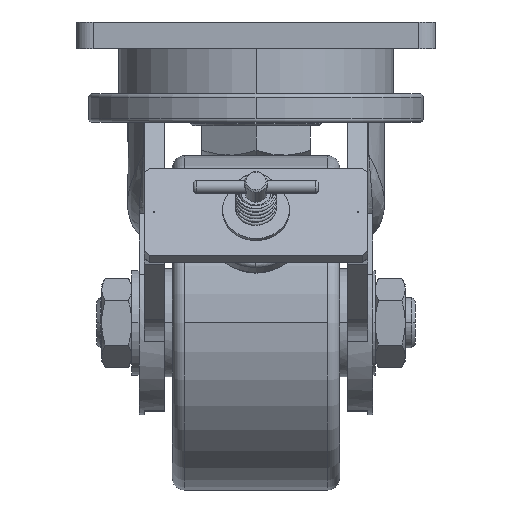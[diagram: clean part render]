
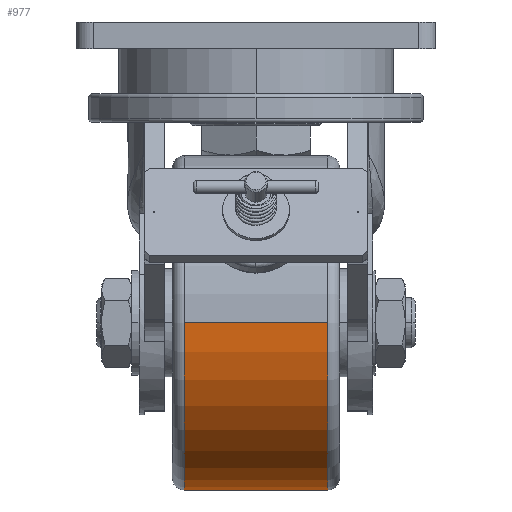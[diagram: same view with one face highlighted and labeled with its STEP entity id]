
A CAD part, front view. The second image highlights one B-rep face of the part: STEP entity #977.
In plain terms, the highlighted cylindrical face has radius 100.001 mm (diameter 200.001 mm), a partial arc.
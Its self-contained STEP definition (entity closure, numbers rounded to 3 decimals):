
#882=CARTESIAN_POINT('',(-183.069,-141.513,-235.069));
#883=VERTEX_POINT('',#882);
#909=CARTESIAN_POINT('',(-283.07,-41.512,-235.069));
#910=VERTEX_POINT('',#909);
#918=CARTESIAN_POINT('',(-183.069,-41.512,-235.069));
#919=DIRECTION('',(0.0,0.0,1.0));
#920=DIRECTION('',(1.0,0.0,0.0));
#921=AXIS2_PLACEMENT_3D('',#918,#919,#920);
#922=CIRCLE('',#921,100.001);
#923=EDGE_CURVE('',#910,#883,#922,.T.);
#928=CARTESIAN_POINT('',(-183.069,-41.512,-278.069));
#929=DIRECTION('',(0.,0.,1.0));
#930=DIRECTION('',(1.0,0.0,0.0));
#931=AXIS2_PLACEMENT_3D('',#928,#929,#930);
#932=CYLINDRICAL_SURFACE('',#931,100.001);
#933=CARTESIAN_POINT('',(-83.068,-41.512,-235.069));
#934=VERTEX_POINT('',#933);
#935=CARTESIAN_POINT('',(-83.068,-41.512,-321.069));
#936=VERTEX_POINT('',#935);
#937=CARTESIAN_POINT('',(-83.068,-41.512,-235.069));
#938=DIRECTION('',(0.0,0.0,-1.0));
#939=VECTOR('',#938,86.);
#940=LINE('',#937,#939);
#941=EDGE_CURVE('',#934,#936,#940,.T.);
#942=ORIENTED_EDGE('',*,*,#941,.F.);
#943=CARTESIAN_POINT('',(-183.069,-41.512,-235.069));
#944=DIRECTION('',(0.0,0.0,1.0));
#945=DIRECTION('',(1.0,0.0,0.0));
#946=AXIS2_PLACEMENT_3D('',#943,#944,#945);
#947=CIRCLE('',#946,100.001);
#948=EDGE_CURVE('',#883,#934,#947,.T.);
#949=ORIENTED_EDGE('',*,*,#948,.F.);
#950=ORIENTED_EDGE('',*,*,#923,.F.);
#951=CARTESIAN_POINT('',(-283.07,-41.512,-321.069));
#952=VERTEX_POINT('',#951);
#953=CARTESIAN_POINT('',(-283.07,-41.512,-235.069));
#954=DIRECTION('',(0.0,0.0,-1.0));
#955=VECTOR('',#954,86.);
#956=LINE('',#953,#955);
#957=EDGE_CURVE('',#910,#952,#956,.T.);
#958=ORIENTED_EDGE('',*,*,#957,.T.);
#959=CARTESIAN_POINT('',(-183.069,-141.513,-321.069));
#960=VERTEX_POINT('',#959);
#961=CARTESIAN_POINT('',(-183.069,-41.512,-321.069));
#962=DIRECTION('',(0.0,0.0,1.0));
#963=DIRECTION('',(1.0,0.0,0.0));
#964=AXIS2_PLACEMENT_3D('',#961,#962,#963);
#965=CIRCLE('',#964,100.001);
#966=EDGE_CURVE('',#952,#960,#965,.T.);
#967=ORIENTED_EDGE('',*,*,#966,.T.);
#968=CARTESIAN_POINT('',(-183.069,-41.512,-321.069));
#969=DIRECTION('',(0.0,0.0,1.0));
#970=DIRECTION('',(1.0,0.0,0.0));
#971=AXIS2_PLACEMENT_3D('',#968,#969,#970);
#972=CIRCLE('',#971,100.001);
#973=EDGE_CURVE('',#960,#936,#972,.T.);
#974=ORIENTED_EDGE('',*,*,#973,.T.);
#975=EDGE_LOOP('',(#942,#949,#950,#958,#967,#974));
#976=FACE_OUTER_BOUND('',#975,.T.);
#977=ADVANCED_FACE('',(#976),#932,.T.);
